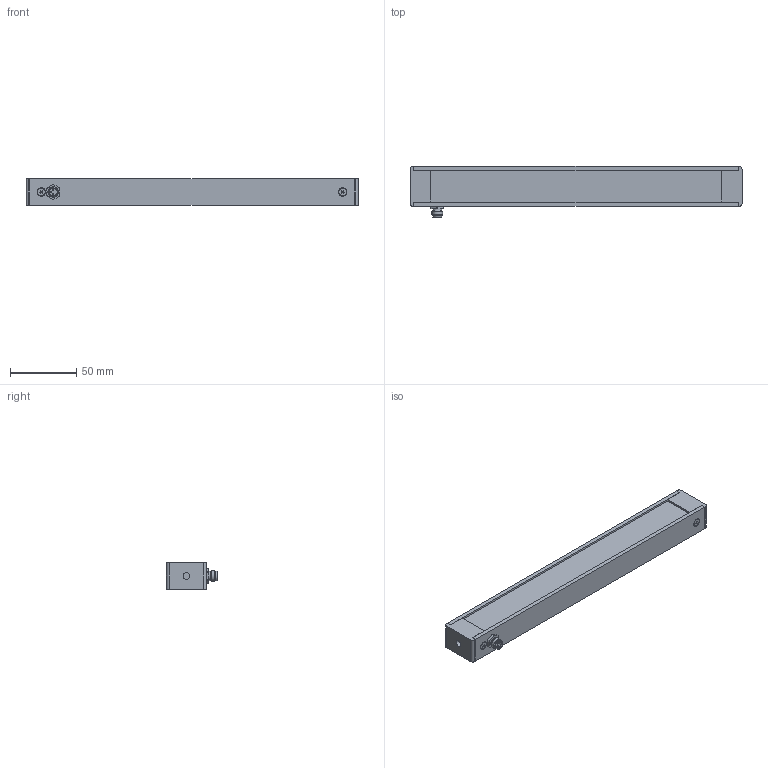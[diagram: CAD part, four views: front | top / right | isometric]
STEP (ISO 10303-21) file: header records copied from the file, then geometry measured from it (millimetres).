
FILE_DESCRIPTION(/* description */ (''),/* implementation_level */ '2;1');
FILE_NAME(/* name */ 'P:/1058_Scalable_Lighting/22_scalable_30mm_line_mill/Mech drawings/01_Stand alone/Product length 250/User/10582201_250_V1.0.0_20200826.step',/* time_stamp */ '2020-08-26T12:35:58+02:00',/* author */ (''),/* organization */ (''),/* preprocessor_version */ 'ST-DEVELOPER v18.1',/* originating_system */ 'Autodesk Translation Framework v9.3.0.1241',/* authorisation */ '');
FILE_SCHEMA (('AUTOMOTIVE_DESIGN { 1 0 10303 214 3 1 1 }'));
Length unit declared in the file: millimetre
Products named in the file (1): 10582201_250_V1.0.0_20200826
Bounding box: 250 x 38.5 x 20 mm (x, y, z)
Volume: 74218.7 mm3; surface area: 52371.7 mm2
Topology: 1 solids, 9 shells, 299 faces, 691 edges, 436 vertices
Faces by surface type: plane 198, cylinder 69, cone 29, sphere 3
Full cylindrical faces by diameter (mm): 0.6 x8, 1 x3, 1.2 x3, 2.529 x8, 3 x8, 3.1 x2, 3.2 x8, 5.035 x2, 5.7 x8, 5.8 x1, 6.2 x1, 6.4 x1, 6.8 x2, 7 x1, 7.2 x1, 8 x2
Entity records: 8466 total; most frequent: DIRECTION 1516, CARTESIAN_POINT 1422, ORIENTED_EDGE 1372, EDGE_CURVE 686, AXIS2_PLACEMENT_3D 530, LINE 456, VECTOR 456, VERTEX_POINT 436
